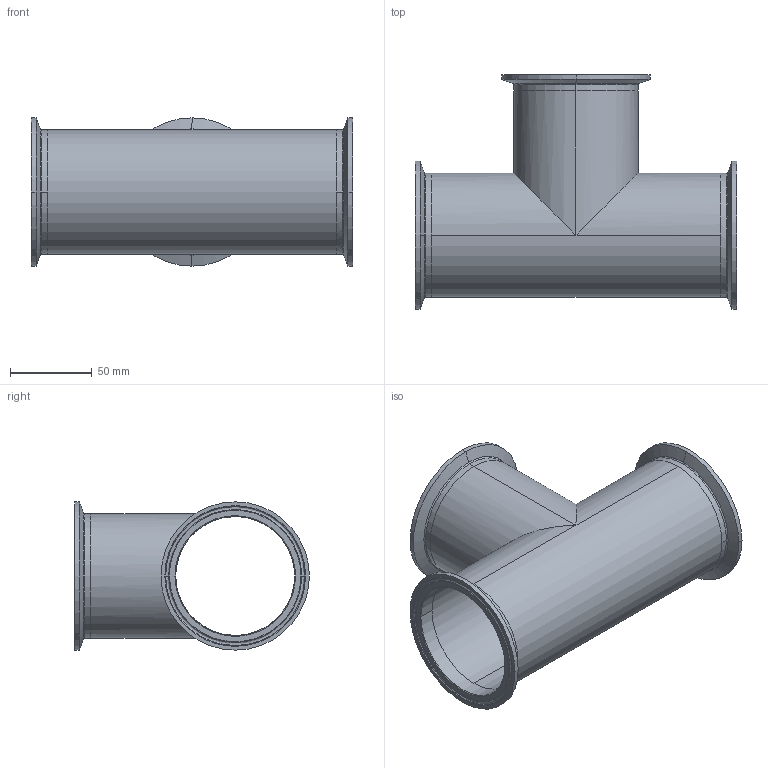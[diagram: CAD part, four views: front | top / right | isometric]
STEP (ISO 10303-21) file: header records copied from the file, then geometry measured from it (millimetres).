
FILE_DESCRIPTION (( 'STEP AP214' ), '1' );
FILE_NAME ('TEG76L3.0-...STEP', '2016-05-23T07:05:52', ( 'eran' ), ( '' ), 'SwSTEP 2.0', 'SolidWorks 2016', '' );
FILE_SCHEMA (( 'AUTOMOTIVE_DESIGN' ));
Length unit declared in the file: millimetre
Products named in the file (1): TEG76L3.0-..
Bounding box: 196.8 x 143.85 x 90.91 mm (x, y, z)
Volume: 118733.5 mm3; surface area: 130130.5 mm2
Topology: 4 solids, 4 shells, 88 faces, 220 edges, 142 vertices
Faces by surface type: bspline 30, cylinder 28, cone 18, plane 12
Entity records: 4826 total; most frequent: CARTESIAN_POINT 2665, DIRECTION 466, ORIENTED_EDGE 440, EDGE_CURVE 220, AXIS2_PLACEMENT_3D 209, CIRCLE 150, VERTEX_POINT 142, EDGE_LOOP 100
